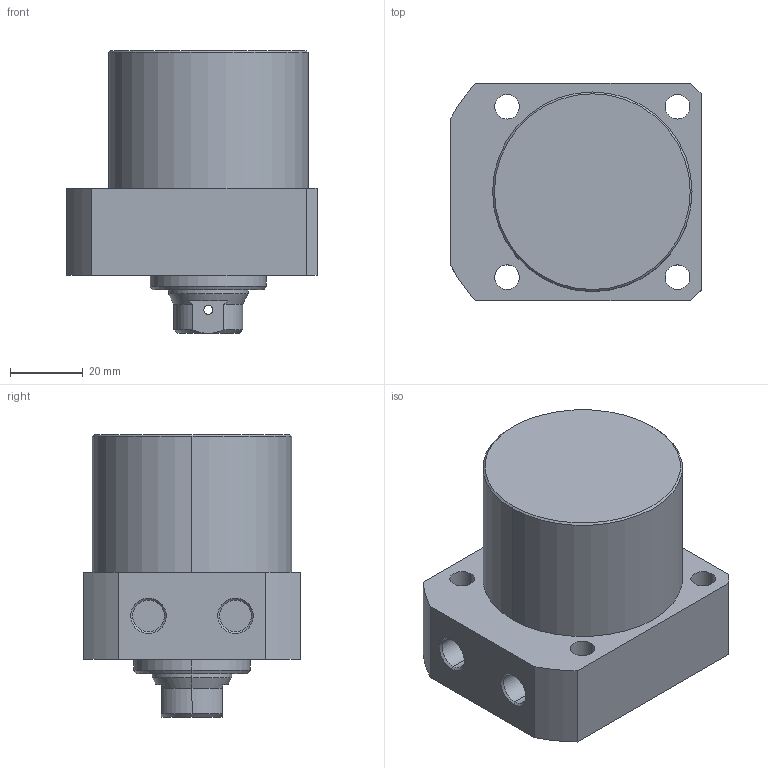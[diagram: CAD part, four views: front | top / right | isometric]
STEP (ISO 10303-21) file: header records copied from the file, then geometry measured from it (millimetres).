
FILE_DESCRIPTION (( 'STEP AP203' ), '1' );
FILE_NAME ('CLLR-055CB-025.STEP', '2019-12-19T07:45:21', ( '' ), ( '' ), 'SwSTEP 2.0', 'SolidWorks 2015', '' );
FILE_SCHEMA (( 'CONFIG_CONTROL_DESIGN' ));
Length unit declared in the file: millimetre
Products named in the file (1): CLLR-055CB-025
Bounding box: 69 x 60 x 78 mm (x, y, z)
Volume: 187878.6 mm3; surface area: 24792.5 mm2
Topology: 1 solids, 1 shells, 69 faces, 163 edges, 102 vertices
Faces by surface type: cylinder 33, plane 19, cone 17
Entity records: 2183 total; most frequent: CARTESIAN_POINT 453, DIRECTION 368, ORIENTED_EDGE 322, EDGE_CURVE 161, AXIS2_PLACEMENT_3D 149, VERTEX_POINT 102, EDGE_LOOP 89, CIRCLE 79
